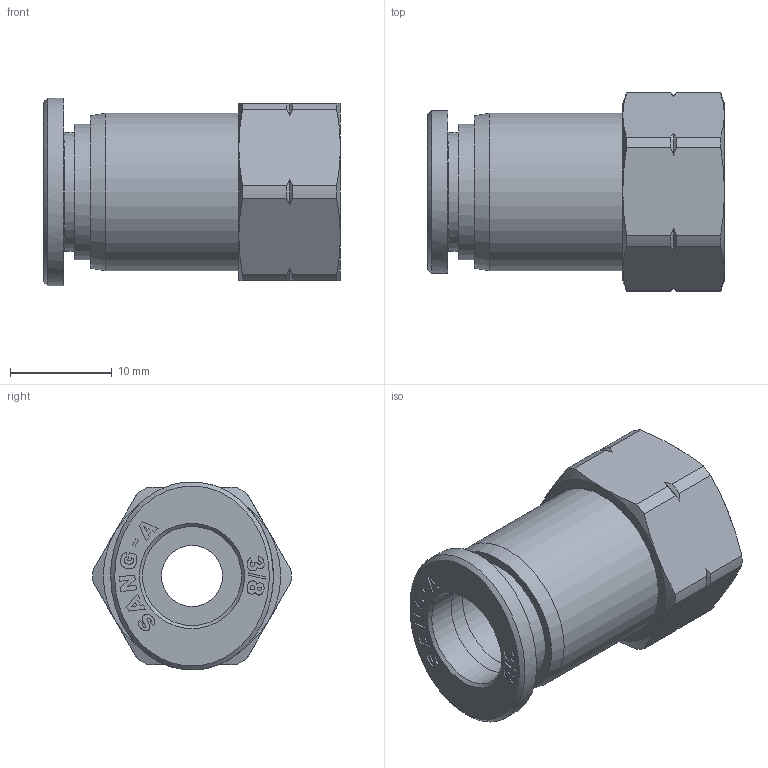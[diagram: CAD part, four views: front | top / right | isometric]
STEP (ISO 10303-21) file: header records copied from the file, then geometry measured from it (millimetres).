
FILE_DESCRIPTION((''),'2;1');
FILE_NAME('C:\Users\user0117\Desktop\김진일\홈페이지\3_8\Internet\GPCF 3_8-N01U.stp','2019-09-05T15:06:22',('user0117'),(''),'Autodesk Inventor 2013','Autodesk Inventor 2013','');
FILE_SCHEMA(('AUTOMOTIVE_DESIGN { 1 0 10303 214 1 1 1 1 }'));
Length unit declared in the file: millimetre
Products named in the file (5): GPCF 3_8-N01U; GPCF BODY 3_8-N01(BRASS); G-COLLAR 3-8C; COLLAR G3-8C; SLEEVE G3-8
Assembly tree (4 placements, depth 3):
  GPCF 3_8-N01U
    GPCF BODY 3_8-N01(BRASS)
    G-COLLAR 3-8C
      COLLAR G3-8C
      SLEEVE G3-8
Bounding box: 29.2 x 19.5 x 18.49 mm (x, y, z)
Volume: 4124 mm3; surface area: 3236 mm2
Topology: 3 solids, 3 shells, 371 faces, 1033 edges, 685 vertices
Faces by surface type: plane 282, bspline 37, cone 29, cylinder 23
Full cylindrical faces by diameter (mm): 6 x1, 9.75 x3, 11.7 x1, 13.3 x1, 15.5 x1
Entity records: 12173 total; most frequent: CARTESIAN_POINT 2913, ORIENTED_EDGE 2028, DIRECTION 1650, EDGE_CURVE 1014, VECTOR 822, LINE 822, VERTEX_POINT 679, AXIS2_PLACEMENT_3D 414
